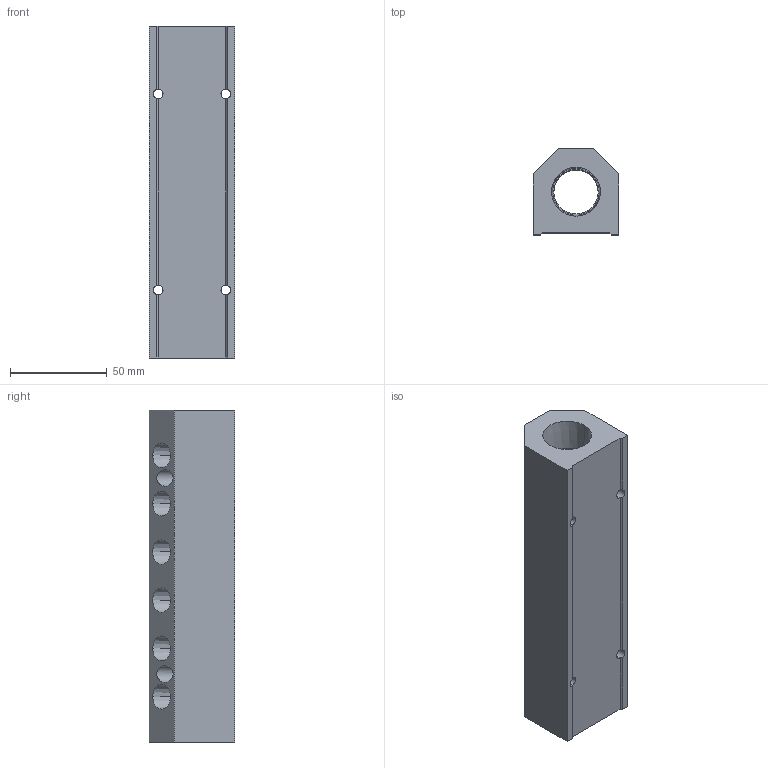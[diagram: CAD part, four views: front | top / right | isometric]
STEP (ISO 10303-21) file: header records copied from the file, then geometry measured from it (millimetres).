
FILE_DESCRIPTION (( 'STEP AP214' ), '1' );
FILE_NAME ('ALM6BD-N4N12-172R.step', '2022-02-06T14:06:12', ( '' ), ( '' ), 'SwSTEP 2.0', 'SolidWorks 2020', '' );
FILE_SCHEMA (( 'AUTOMOTIVE_DESIGN' ));
Length unit declared in the file: millimetre
Products named in the file (1): ALM6BD-N4N12-172R
Bounding box: 44.5 x 44.5 x 172 mm (x, y, z)
Volume: 211440.4 mm3; surface area: 48076.4 mm2
Topology: 1 solids, 1 shells, 315 faces, 839 edges, 554 vertices
Faces by surface type: plane 212, bspline 45, cone 36, cylinder 22
Entity records: 16646 total; most frequent: CARTESIAN_POINT 6250, ORIENTED_EDGE 1678, DIRECTION 1311, EDGE_CURVE 839, LINE 617, VECTOR 617, VERTEX_POINT 554, EDGE_LOOP 377
